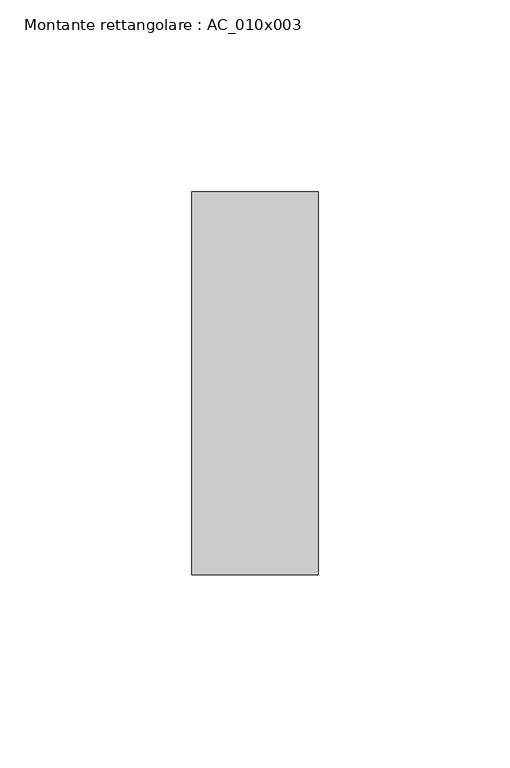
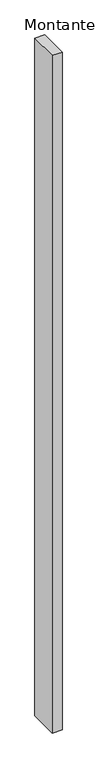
"""IFC4 building model written with IfcOpenShell, lengths in millimetres: member geometry, Montante rettangolare : AC_010x003."""

from ifc_helpers import new_model, si_unit, frame, origin, place, context, project, spatial, polyline, outline, extrude, source, transform, mapped, element, save


def montante_rettangolare_ac_010x003_ccebbbc4(model_context):
    return source(origin(), model_context, "Body", "SweptSolid", [
        extrude(outline(polyline([(0.0, 50.0), (0.0, -50.0), (-33.0, -50.0), (-33.0, 50.0), (0.0, 50.0)])), frame((0.0, 0.0, -2400.0), z_axis=(0.0, 0.0, 1.0), x_axis=(1.0, 0.0, 0.0)), (0.0, 0.0, 1.0), 2400.0),
    ])


if __name__ == "__main__":
    model = new_model("IFC4")
    model_context = context("Model", 3, world=origin())
    ifc_project = project(units=[si_unit("LENGTHUNIT", "METRE", prefix="MILLI")], contexts=[model_context])
    site = spatial("IfcSite", under=ifc_project)
    building = spatial("IfcBuilding", under=site)
    placement = place(None, origin())
    montante_rettangolare_ac_010x003_shape = montante_rettangolare_ac_010x003_ccebbbc4(model_context)
    element("IfcMember", 1, ObjectType="Montante rettangolare : AC_010x003", at=placement, inside=building, context=model_context, shape_type="MappedRepresentation", body=[
        mapped(montante_rettangolare_ac_010x003_shape, transform((0.0, 0.0, 0.0), x_axis=(1.0, 0.0, 0.0), y_axis=(0.0, 1.0, 0.0), z_axis=(0.0, 0.0, 1.0))),
    ])
    save(model, "model.ifc")
